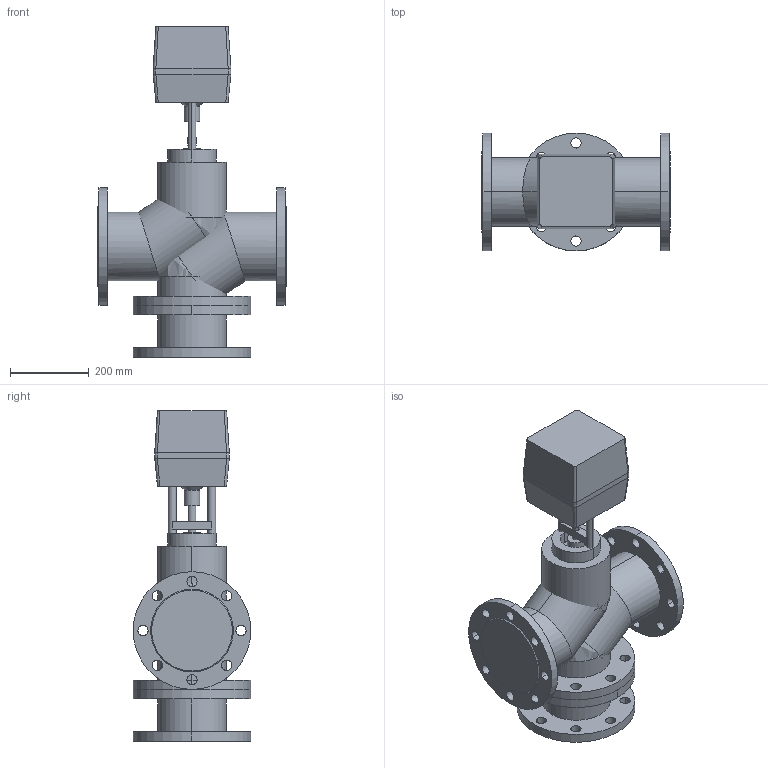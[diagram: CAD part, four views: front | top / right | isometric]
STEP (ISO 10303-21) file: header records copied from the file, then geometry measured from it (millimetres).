
FILE_DESCRIPTION(/* description */ (''),/* implementation_level */ '2;1');
FILE_NAME(/* name */ 'ТРК DN150 PN 2.5 МПа LEA 10000',/* time_stamp */ '2026-07-14T23:06:00+03:00',/* author */ (''),/* organization */ (''),/* preprocessor_version */ 'ST-DEVELOPER v20',/* originating_system */ '',/* authorisation */ '');
FILE_SCHEMA (('AP242_MANAGED_MODEL_BASED_3D_ENGINEERING_MIM_LF { 1 0 10303 442 1 1 4 }'));
Length unit declared in the file: millimetre
Products named in the file (16): TopLevelAssembly; Выдавливание; Модификатор; Модификатор_1; Выдавливание_
1; Выдавливание_
2; Вращение; Выдавливание_
3; Выдавливание_
4; Выдавливание_
5; Выдавливание_
6; Выдавливание_
7; 1600; Переход; Объемная геометрия 
присоединена; Объемная геометрия 
присоединена_1
Assembly tree (15 placements, depth 2):
  TopLevelAssembly
    Выдавливание
    Модификатор
    Модификатор_1
    Выдавливание_
1
    Выдавливание_
2
    Вращение
    Выдавливание_
3
    Выдавливание_
4
    Выдавливание_
5
    Выдавливание_
6
    Выдавливание_
7
    1600
    Переход
    Объемная геометрия 
присоединена
    Объемная геометрия 
присоединена_1
Bounding box: 480 x 300 x 842 mm (x, y, z)
Volume: 36779785.7 mm3; surface area: 2132958.4 mm2
Topology: 25 solids, 25 shells, 227 faces, 531 edges, 348 vertices
Faces by surface type: cylinder 140, plane 69, bspline 14, cone 4
Entity records: 7541 total; most frequent: CARTESIAN_POINT 1427, DIRECTION 1324, ORIENTED_EDGE 1046, AXIS2_PLACEMENT_3D 557, EDGE_CURVE 523, VERTEX_POINT 348, EDGE_LOOP 321, CIRCLE 305
